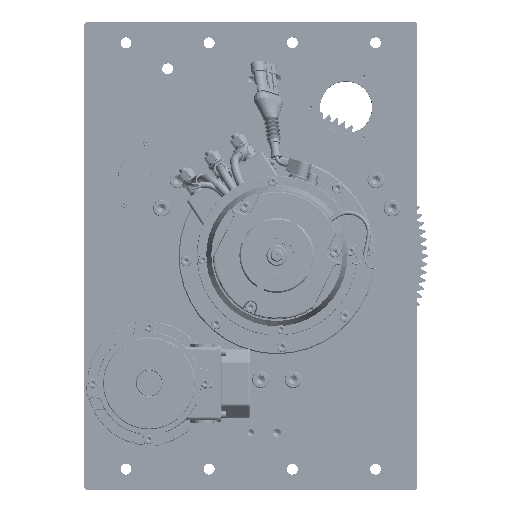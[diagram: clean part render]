
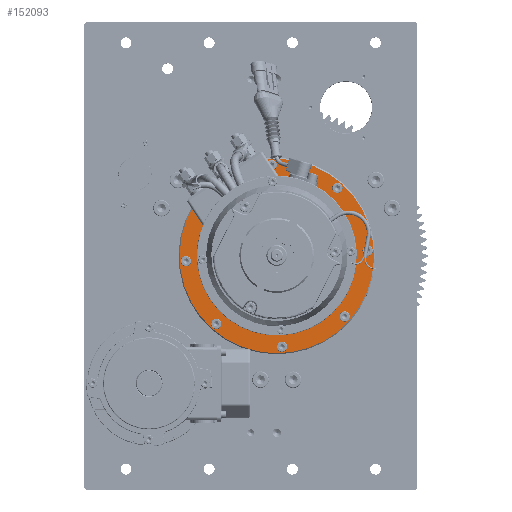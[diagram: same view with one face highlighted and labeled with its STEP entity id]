
A CAD part, top view. The second image highlights one B-rep face of the part: STEP entity #152093.
In plain terms, the highlighted planar face has unit normal (0, 0, 1).
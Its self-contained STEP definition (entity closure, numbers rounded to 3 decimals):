
#4496=PLANE('',#164346);
#7864=FACE_BOUND('',#21718,.T.);
#7865=FACE_BOUND('',#21719,.T.);
#7866=FACE_BOUND('',#21720,.T.);
#7867=FACE_BOUND('',#21721,.T.);
#7868=FACE_BOUND('',#21722,.T.);
#7869=FACE_BOUND('',#21723,.T.);
#7870=FACE_BOUND('',#21724,.T.);
#7871=FACE_BOUND('',#21725,.T.);
#7872=FACE_BOUND('',#21726,.T.);
#12776=FACE_OUTER_BOUND('',#21717,.T.);
#21717=EDGE_LOOP('',(#115754));
#21718=EDGE_LOOP('',(#115755));
#21719=EDGE_LOOP('',(#115756));
#21720=EDGE_LOOP('',(#115757));
#21721=EDGE_LOOP('',(#115758));
#21722=EDGE_LOOP('',(#115759));
#21723=EDGE_LOOP('',(#115760));
#21724=EDGE_LOOP('',(#115761));
#21725=EDGE_LOOP('',(#115762));
#21726=EDGE_LOOP('',(#115763));
#31411=CIRCLE('',#162973,5.);
#31422=CIRCLE('',#162997,5.);
#31433=CIRCLE('',#163021,5.);
#31444=CIRCLE('',#163045,5.);
#31455=CIRCLE('',#163069,5.);
#31466=CIRCLE('',#163093,5.);
#31477=CIRCLE('',#163117,5.);
#31488=CIRCLE('',#163141,5.);
#32137=CIRCLE('',#164343,93.5);
#32140=CIRCLE('',#164347,76.);
#65833=VERTEX_POINT('',#241668);
#65861=VERTEX_POINT('',#241770);
#65889=VERTEX_POINT('',#241872);
#65917=VERTEX_POINT('',#241974);
#65945=VERTEX_POINT('',#242076);
#65973=VERTEX_POINT('',#242178);
#66001=VERTEX_POINT('',#242280);
#66029=VERTEX_POINT('',#242382);
#67498=VERTEX_POINT('',#247425);
#67501=VERTEX_POINT('',#247433);
#83029=EDGE_CURVE('',#65833,#65833,#31411,.T.);
#83066=EDGE_CURVE('',#65861,#65861,#31422,.T.);
#83103=EDGE_CURVE('',#65889,#65889,#31433,.T.);
#83140=EDGE_CURVE('',#65917,#65917,#31444,.T.);
#83177=EDGE_CURVE('',#65945,#65945,#31455,.T.);
#83214=EDGE_CURVE('',#65973,#65973,#31466,.T.);
#83251=EDGE_CURVE('',#66001,#66001,#31477,.T.);
#83288=EDGE_CURVE('',#66029,#66029,#31488,.T.);
#85241=EDGE_CURVE('',#67498,#67498,#32137,.T.);
#85245=EDGE_CURVE('',#67501,#67501,#32140,.T.);
#115754=ORIENTED_EDGE('',*,*,#85241,.F.);
#115755=ORIENTED_EDGE('',*,*,#83029,.T.);
#115756=ORIENTED_EDGE('',*,*,#83066,.T.);
#115757=ORIENTED_EDGE('',*,*,#83103,.T.);
#115758=ORIENTED_EDGE('',*,*,#83140,.T.);
#115759=ORIENTED_EDGE('',*,*,#83177,.T.);
#115760=ORIENTED_EDGE('',*,*,#83214,.T.);
#115761=ORIENTED_EDGE('',*,*,#83251,.T.);
#115762=ORIENTED_EDGE('',*,*,#83288,.T.);
#115763=ORIENTED_EDGE('',*,*,#85245,.F.);
#152093=ADVANCED_FACE('',(#12776,#7864,#7865,#7866,#7867,#7868,#7869,#7870,
#7871,#7872),#4496,.T.);
#162973=AXIS2_PLACEMENT_3D('',#241669,#190662,#190663);
#162997=AXIS2_PLACEMENT_3D('',#241771,#190727,#190728);
#163021=AXIS2_PLACEMENT_3D('',#241873,#190792,#190793);
#163045=AXIS2_PLACEMENT_3D('',#241975,#190857,#190858);
#163069=AXIS2_PLACEMENT_3D('',#242077,#190922,#190923);
#163093=AXIS2_PLACEMENT_3D('',#242179,#190987,#190988);
#163117=AXIS2_PLACEMENT_3D('',#242281,#191052,#191053);
#163141=AXIS2_PLACEMENT_3D('',#242383,#191117,#191118);
#164343=AXIS2_PLACEMENT_3D('',#247426,#194712,#194713);
#164346=AXIS2_PLACEMENT_3D('',#247432,#194719,#194720);
#164347=AXIS2_PLACEMENT_3D('',#247434,#194721,#194722);
#190662=DIRECTION('center_axis',(0.,0.,
-1.));
#190663=DIRECTION('ref_axis',(-0.983,-0.181,0.));
#190727=DIRECTION('center_axis',(0.,0.,
-1.));
#190728=DIRECTION('ref_axis',(-0.823,0.567,0.));
#190792=DIRECTION('center_axis',(0.,0.,
-1.));
#190793=DIRECTION('ref_axis',(-0.181,0.983,0.));
#190857=DIRECTION('center_axis',(0.,0.,
-1.));
#190858=DIRECTION('ref_axis',(0.567,0.823,0.));
#190922=DIRECTION('center_axis',(0.,0.,
-1.));
#190923=DIRECTION('ref_axis',(0.983,0.181,0.));
#190987=DIRECTION('center_axis',(0.,0.,
-1.));
#190988=DIRECTION('ref_axis',(0.823,-0.567,0.));
#191052=DIRECTION('center_axis',(0.,0.,
-1.));
#191053=DIRECTION('ref_axis',(0.181,-0.983,0.));
#191117=DIRECTION('center_axis',(0.,0.,
-1.));
#191118=DIRECTION('ref_axis',(-0.567,-0.823,0.));
#194712=DIRECTION('center_axis',(0.,0.,
-1.));
#194713=DIRECTION('ref_axis',(-0.746,0.666,0.));
#194719=DIRECTION('center_axis',(0.,0.,
1.));
#194720=DIRECTION('ref_axis',(0.746,-0.666,0.));
#194721=DIRECTION('center_axis',(0.,0.,
1.));
#194722=DIRECTION('ref_axis',(-0.746,0.666,0.));
#241668=CARTESIAN_POINT('',(-11.321,51.493,84.764));
#241669=CARTESIAN_POINT('Origin',(-16.239,50.588,84.764));
#241770=CARTESIAN_POINT('',(51.109,25.689,84.764));
#241771=CARTESIAN_POINT('Origin',(46.992,28.527,84.764));
#241872=CARTESIAN_POINT('',(77.008,-36.702,84.764));
#241873=CARTESIAN_POINT('Origin',(76.104,-31.785,84.764));
#241974=CARTESIAN_POINT('',(51.204,-99.133,84.764));
#241975=CARTESIAN_POINT('Origin',(54.042,-95.016,84.764));
#242076=CARTESIAN_POINT('',(-11.187,-125.032,84.764));
#242077=CARTESIAN_POINT('Origin',(-6.269,-124.127,84.764));
#242178=CARTESIAN_POINT('',(-73.618,-99.228,84.764));
#242179=CARTESIAN_POINT('Origin',(-69.501,-102.066,84.764));
#242280=CARTESIAN_POINT('',(-99.517,-36.837,84.764));
#242281=CARTESIAN_POINT('Origin',(-98.612,-41.754,84.764));
#242382=CARTESIAN_POINT('',(-73.713,25.594,84.764));
#242383=CARTESIAN_POINT('Origin',(-76.55,21.477,84.764));
#247425=CARTESIAN_POINT('',(58.519,-99.01,84.764));
#247426=CARTESIAN_POINT('Origin',(-11.254,-36.77,84.764));
#247432=CARTESIAN_POINT('Origin',(52.176,-93.352,84.764));
#247433=CARTESIAN_POINT('',(45.46,-87.361,84.764));
#247434=CARTESIAN_POINT('Origin',(-11.254,-36.77,84.764));
